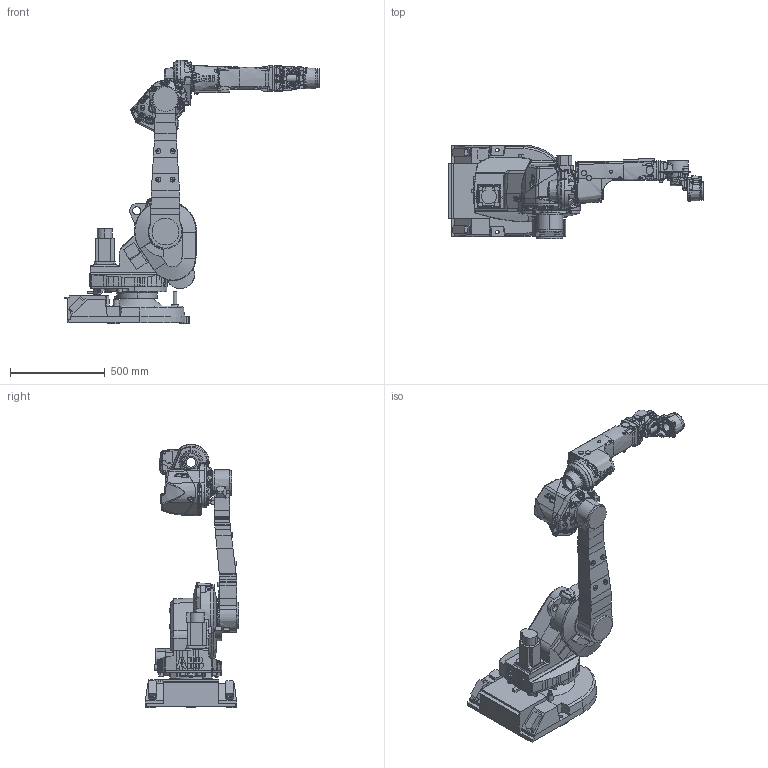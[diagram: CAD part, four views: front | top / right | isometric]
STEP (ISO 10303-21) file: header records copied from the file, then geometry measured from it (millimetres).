
FILE_DESCRIPTION (( 'STEP AP214' ), '1' );
FILE_NAME ('IRB1660ID_6-155.STEP', '2016-04-19T05:44:20', ( 'ABB' ), ( 'ABB' ), 'SwSTEP 2.0', 'SolidWorks 2014', '' );
FILE_SCHEMA (( 'AUTOMOTIVE_DESIGN' ));
Length unit declared in the file: millimetre
Products named in the file (8): IRB1660ID_6-155_IRC5_rev0_LINK6; IRB1660ID_6-155_IRC5_rev0_LINK5; IRB1660ID_6-155_IRC5_rev0_LINK4; IRB1660ID_6-155_IRC5_rev0_LINK3; IRB1660ID_6-155_IRC5_rev0_LINK2; IRB1660ID_6-155_IRC5_rev0_LINK1; IRB1660ID_6-155_IRC5_rev0_BASE; IRB1660ID_6-155
Assembly tree (7 placements, depth 2):
  IRB1660ID_6-155
    IRB1660ID_6-155_IRC5_rev0_BASE
    IRB1660ID_6-155_IRC5_rev0_LINK1
    IRB1660ID_6-155_IRC5_rev0_LINK2
    IRB1660ID_6-155_IRC5_rev0_LINK3
    IRB1660ID_6-155_IRC5_rev0_LINK4
    IRB1660ID_6-155_IRC5_rev0_LINK5
    IRB1660ID_6-155_IRC5_rev0_LINK6
Bounding box: 1345.26 x 494.27 x 1391.97 mm (x, y, z)
Volume: 100507700.2 mm3; surface area: 3442442.7 mm2
Topology: 16 solids, 23 shells, 3831 faces, 10210 edges, 6588 vertices
Faces by surface type: plane 1463, bspline 938, cylinder 807, cone 445, torus 166, sphere 12
Entity records: 212315 total; most frequent: CARTESIAN_POINT 124236, ORIENTED_EDGE 20230, DIRECTION 12786, EDGE_CURVE 10115, VERTEX_POINT 6588, B_SPLINE_CURVE_WITH_KNOTS 4446, AXIS2_PLACEMENT_3D 4345, EDGE_LOOP 4117
